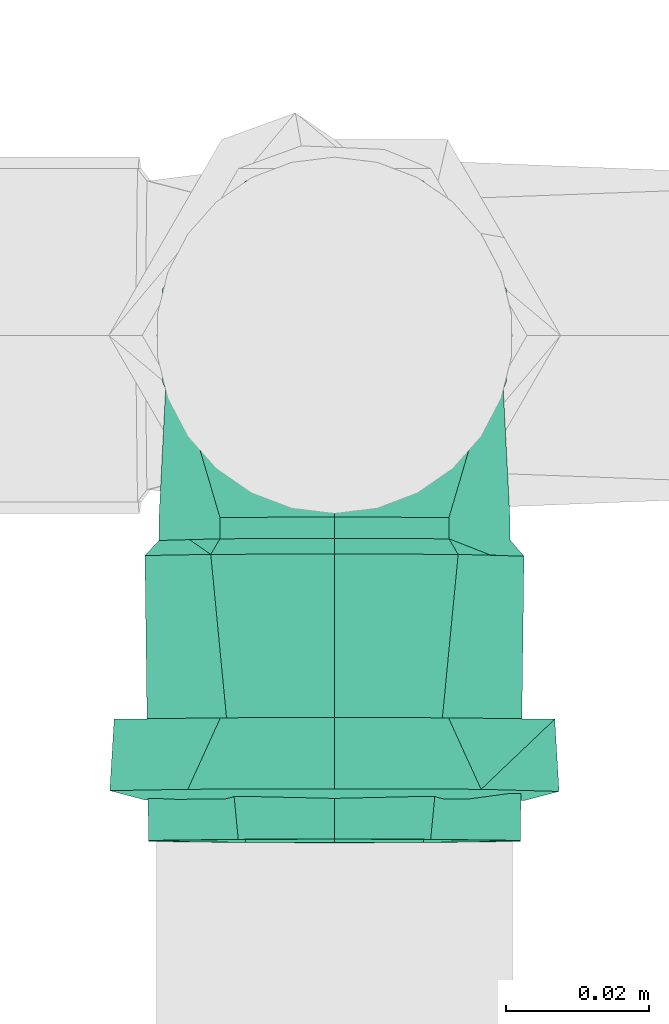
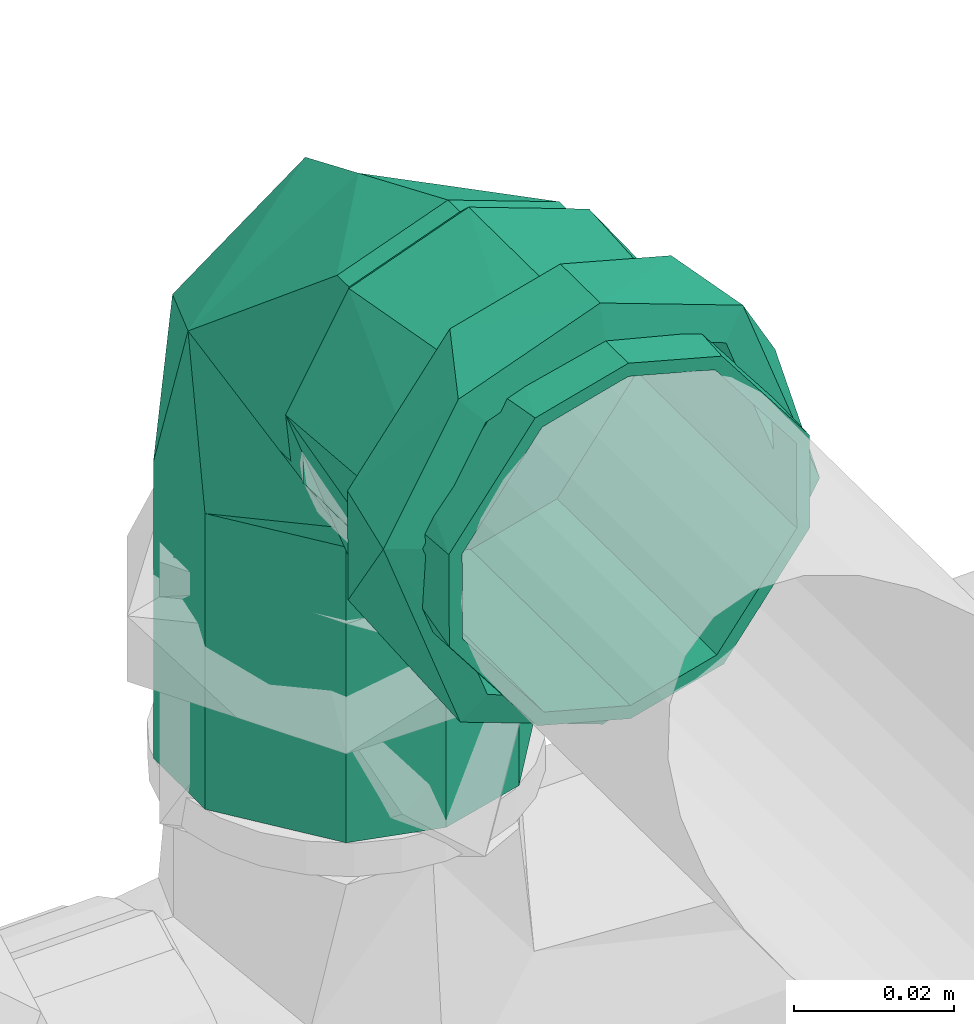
# One storey, part 101 of 589: 1 flow fitting.
"""IFC2X3 building model written with IfcOpenShell, lengths in millimetres."""

import ifcopenshell
import ifcopenshell.guid

model = None  # the IFC model being written
_history = None  # IfcOwnerHistory: only IFC2X3 demands one
_inside = {}  # id of a spatial element -> (the spatial element, [elements in it])
_under = {}  # id of a project, library or spatial element -> (it, [spatial elements below it])
_declared = {}  # id of a project -> (the project, [libraries it declares])
_typed = {}  # id of a type object -> (the type object, [elements of that type])
_made_of = {}  # id of a material, layer set ... -> (it, [elements and type objects made of it])


def new_model(schema):
    """Start an empty IFC model of exactly this schema.

    Asked for "IFC4X3", IfcOpenShell would pick the latest addendum, in which some entities
    have other attributes; the version numbers below select the first issue.
    IFC2X3 requires an IfcOwnerHistory on every rooted entity: one is made here for all.
    """
    global model, _history
    if schema == "IFC4X3":
        model = ifcopenshell.file(schema_version=(4, 3, 0, 0))
    else:
        model = ifcopenshell.file(schema=schema)
    _inside.clear()
    _under.clear()
    _declared.clear()
    _typed.clear()
    _made_of.clear()
    _history = None
    if model.schema == "IFC2X3":
        org = make("IfcOrganization", Name="unknown")
        user = make(
            "IfcPersonAndOrganization",
            ThePerson=make("IfcPerson", FamilyName="unknown"),
            TheOrganization=org,
        )
        app = make(
            "IfcApplication",
            ApplicationDeveloper=org,
            Version="unknown",
            ApplicationFullName="unknown",
            ApplicationIdentifier="unknown",
        )
        _history = make(
            "IfcOwnerHistory",
            OwningUser=user,
            OwningApplication=app,
            ChangeAction="ADDED",
            CreationDate=0,
        )
    return model


def make(cls, **values):
    """One entity of the class cls with the attributes given. An attribute that is None is left unset."""
    return model.create_entity(
        cls, **{name: value for name, value in values.items() if value is not None}
    )


def entity(cls, *values):
    """Any entity or typed value of the class cls, its attributes in the order of the schema. None: left unset."""
    e = model.create_entity(cls)
    for i, value in enumerate(values):
        if value is not None:
            e[i] = value
    return e


def rooted(cls, **values):
    """An entity with a GlobalId (a new one), such as an element, a storey or a relation."""
    return make(cls, GlobalId=ifcopenshell.guid.new(), OwnerHistory=_history, **values)


def si_unit(unit_type, name, prefix=None):
    """IfcSIUnit, for example si_unit("LENGTHUNIT", "METRE", prefix="MILLI")."""
    return make("IfcSIUnit", UnitType=unit_type, Prefix=prefix, Name=name)


def converted_unit(unit_type, name, factor, base, dimensions=None, offset=None):
    """IfcConversionBasedUnit, such as the inch: factor (a typed value) times the base unit."""
    return make(
        "IfcConversionBasedUnit"
        if offset is None
        else "IfcConversionBasedUnitWithOffset",
        ConversionOffset=offset,
        Dimensions=None
        if dimensions is None
        else entity("IfcDimensionalExponents", *dimensions),
        UnitType=unit_type,
        Name=name,
        ConversionFactor=make(
            "IfcMeasureWithUnit", ValueComponent=factor, UnitComponent=base
        ),
    )


def derived_unit(unit_type, elements):
    """IfcDerivedUnit: a product of units, each with its exponent."""
    return make(
        "IfcDerivedUnit",
        Elements=[
            make("IfcDerivedUnitElement", Unit=unit, Exponent=power)
            for unit, power in elements
        ],
        UnitType=unit_type,
    )


def assignment(units):
    """IfcUnitAssignment: the units of a project."""
    return None if units is None else make("IfcUnitAssignment", Units=units)


def point(xyz):
    """IfcCartesianPoint."""
    return None if xyz is None else make("IfcCartesianPoint", Coordinates=xyz)


def direction(xyz):
    """IfcDirection."""
    return None if xyz is None else make("IfcDirection", DirectionRatios=xyz)


def frame(location, z_axis=None, x_axis=None):
    """IfcAxis2Placement3D, a coordinate frame: its origin and axes. An axis left out is left unset."""
    return make(
        "IfcAxis2Placement3D",
        Location=point(location),
        Axis=direction(z_axis),
        RefDirection=direction(x_axis),
    )


def origin():
    """The frame at (0, 0, 0) with its axes left unset."""
    return frame((0.0, 0.0, 0.0))


def place(relative_to, where):
    """IfcLocalPlacement: puts the frame where relative to a parent placement (None: the world)."""
    return make(
        "IfcLocalPlacement", PlacementRelTo=relative_to, RelativePlacement=where
    )


def context(
    kind, dimensions, precision=None, world=None, true_north=None, identifier=None
):
    """IfcGeometricRepresentationContext, for example the 3D "Model" context."""
    return make(
        "IfcGeometricRepresentationContext",
        ContextIdentifier=identifier,
        ContextType=kind,
        CoordinateSpaceDimension=dimensions,
        Precision=precision,
        WorldCoordinateSystem=world,
        TrueNorth=true_north,
    )


def subcontext(parent, identifier, kind, view, scale=None):
    """IfcGeometricRepresentationSubContext, for example "Body" below "Model"."""
    return make(
        "IfcGeometricRepresentationSubContext",
        ContextIdentifier=identifier,
        ContextType=kind,
        ParentContext=parent,
        TargetScale=scale,
        TargetView=view,
    )


def project(units=None, contexts=None):
    """IfcProject with its units and contexts."""
    return rooted(
        "IfcProject",
        Name="project",
        RepresentationContexts=contexts,
        UnitsInContext=assignment(units),
    )


def spatial(cls, under=None, at=None, **own):
    """A site, building, storey or space (cls), placed at a placement, below another one or the project."""
    s = rooted(cls, ObjectPlacement=at, **own)
    if under is not None:
        _under.setdefault(under.id(), (under, []))[1].append(s)
    return s


def faces_of(points, faces, orient=None, outer=None):
    """IfcFace entities. A face is a list of loops; a loop is a list of indices into points, from 0.

    orient and outer hold one flag for each loop. By default every Orientation is true, the
    first loop of a face is its IfcFaceOuterBound and the others are IfcFaceBound.
    """
    made = []
    for i, loops in enumerate(faces):
        bounds = []
        for j, loop in enumerate(loops):
            is_outer = j == 0 if outer is None else outer[i][j]
            bounds.append(
                make(
                    "IfcFaceOuterBound" if is_outer else "IfcFaceBound",
                    Bound=make("IfcPolyLoop", Polygon=[points[k] for k in loop]),
                    Orientation=True if orient is None else orient[i][j],
                )
            )
        made.append(make("IfcFace", Bounds=bounds))
    return made


def faceted_brep(points, faces, orient=None, outer=None, voids=None):
    """IfcFacetedBrep: a solid bounded by flat faces; with voids (closed shells), ...WithVoids."""
    shared = [point(p) for p in points]
    hull = make("IfcClosedShell", CfsFaces=faces_of(shared, faces, orient, outer))
    if voids is None:
        return make("IfcFacetedBrep", Outer=hull)
    return make(
        "IfcFacetedBrepWithVoids",
        Outer=hull,
        Voids=[
            make(cls, CfsFaces=faces_of(shared, fs, o, b)) for cls, fs, o, b in voids
        ],
    )


def shape(context_of_items, identifier, shape_type, items):
    """IfcShapeRepresentation: the items that make up one representation, for example the "Body"."""
    return make(
        "IfcShapeRepresentation",
        ContextOfItems=context_of_items,
        RepresentationIdentifier=identifier,
        RepresentationType=shape_type,
        Items=items,
    )


def source(mapping_origin, context_of_items, identifier, shape_type, items):
    """IfcRepresentationMap: a shape defined once, which mapped items show again and again."""
    return make(
        "IfcRepresentationMap",
        MappingOrigin=mapping_origin,
        MappedRepresentation=shape(context_of_items, identifier, shape_type, items),
    )


def transform(
    local_origin,
    x_axis=None,
    y_axis=None,
    z_axis=None,
    scale=None,
    scale2=None,
    scale3=None,
    uniform=True,
):
    """IfcCartesianTransformationOperator3D, or its non-uniform kind. x_axis, y_axis, z_axis: its Axis1, 2, 3."""
    if uniform:
        return make(
            "IfcCartesianTransformationOperator3D",
            Axis1=direction(x_axis),
            Axis2=direction(y_axis),
            LocalOrigin=point(local_origin),
            Scale=scale,
            Axis3=direction(z_axis),
        )
    return make(
        "IfcCartesianTransformationOperator3DnonUniform",
        Axis1=direction(x_axis),
        Axis2=direction(y_axis),
        LocalOrigin=point(local_origin),
        Scale=scale,
        Axis3=direction(z_axis),
        Scale2=scale2,
        Scale3=scale3,
    )


def mapped(mapping_source, mapping_target):
    """IfcMappedItem: shows the shape of a source again, moved by a transform."""
    return make(
        "IfcMappedItem", MappingSource=mapping_source, MappingTarget=mapping_target
    )


def material(Name=None, Category=None):
    """IfcMaterial."""
    return make("IfcMaterial", Name=Name, Category=Category)


def made_of(thing, what):
    """Note that an element or type object is made of a material, layer set ...; save() writes the relation."""
    if what is not None:
        _made_of.setdefault(what.id(), (what, []))[1].append(thing)
    return thing


def type_object(cls, material=None, **own):
    """A type object (cls), such as IfcWallType, which elements share."""
    return made_of(rooted(cls, **own), material)


def type_shapes(of_type, sources):
    """Give a type object the sources (RepresentationMaps) that its elements show as mapped items."""
    of_type.RepresentationMaps = sources


def element(
    cls,
    number,
    at=None,
    inside=None,
    cuts=None,
    type_object=None,
    material=None,
    context=None,
    identifier="Body",
    shape_type=None,
    held_by="IfcProductDefinitionShape",
    body=None,
    shapes=None,
    **own,
):
    """One element of the class cls, such as IfcWall. Its Tag is "e" and its number.

    at: its placement. inside: the storey or other place that contains it. cuts: it is an
    opening in that element (IfcRelVoidsElement). A single representation is given by context,
    identifier, shape_type and body (its items); several are given by shapes. held_by: the class
    of the entity that holds the representations. save() writes the other relations.
    """
    e = rooted(cls, Tag="e%d" % number, ObjectPlacement=at, **own)
    if body is not None:
        shapes = [shape(context, identifier, shape_type, body)]
    if shapes is not None:
        e.Representation = make(held_by, Representations=shapes)
    if inside is not None:
        _inside.setdefault(inside.id(), (inside, []))[1].append(e)
    if cuts is not None:
        rooted(
            "IfcRelVoidsElement", RelatingBuildingElement=cuts, RelatedOpeningElement=e
        )
    if type_object is not None:
        _typed.setdefault(type_object.id(), (type_object, []))[1].append(e)
    return made_of(e, material)


def aggregate(whole, parts):
    """IfcRelAggregates: a whole, such as a stair, and the parts it consists of."""
    return rooted("IfcRelAggregates", RelatingObject=whole, RelatedObjects=parts)


def save(model, path):
    """Write the relations noted so far, then the file.

    IfcRelAggregates (storeys below a building ...), IfcRelContainedInSpatialStructure (elements
    in a storey), IfcRelDefinesByType, IfcRelAssociatesMaterial and IfcRelDeclares: one each for
    every whole, place, type object, material and project.
    """
    for whole, parts in _under.values():
        aggregate(whole, parts)
    for where, things in _inside.values():
        rooted(
            "IfcRelContainedInSpatialStructure",
            RelatedElements=things,
            RelatingStructure=where,
        )
    for kind, things in _typed.values():
        rooted("IfcRelDefinesByType", RelatedObjects=things, RelatingType=kind)
    for what, things in _made_of.values():
        rooted("IfcRelAssociatesMaterial", RelatedObjects=things, RelatingMaterial=what)
    for by, libraries in _declared.values():
        rooted("IfcRelDeclares", RelatingContext=by, RelatedDefinitions=libraries)
    model.write(path)


model = new_model("IFC2X3")

# Units and contexts
model_context = context("Model", 3, precision=0.01, world=origin(), true_north=direction((6.123031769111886e-17, 1.0)))
body_context = subcontext(model_context, "Body", "Model", "MODEL_VIEW")
ifc_project = project(units=[si_unit("LENGTHUNIT", "METRE", prefix="MILLI"), si_unit("AREAUNIT", "SQUARE_METRE"), si_unit("VOLUMEUNIT", "CUBIC_METRE"), converted_unit("PLANEANGLEUNIT", "DEGREE", entity("IfcRatioMeasure", 0.017453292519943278), si_unit("PLANEANGLEUNIT", "RADIAN"), dimensions=[0, 0, 0, 0, 0, 0, 0]), si_unit("MASSUNIT", "GRAM", prefix="KILO"), derived_unit("MASSDENSITYUNIT", [(si_unit("MASSUNIT", "GRAM", prefix="KILO"), 1), (si_unit("LENGTHUNIT", "METRE"), -3)]), derived_unit("IONCONCENTRATIONUNIT", [(si_unit("MASSUNIT", "GRAM", prefix="KILO"), 1), (si_unit("LENGTHUNIT", "METRE"), -3)]), derived_unit("MOMENTOFINERTIAUNIT", [(si_unit("LENGTHUNIT", "METRE"), 4)]), si_unit("TIMEUNIT", "SECOND"), si_unit("FREQUENCYUNIT", "HERTZ"), si_unit("THERMODYNAMICTEMPERATUREUNIT", "DEGREE_CELSIUS"), derived_unit("THERMALTRANSMITTANCEUNIT", [(si_unit("MASSUNIT", "GRAM", prefix="KILO"), 1), (si_unit("THERMODYNAMICTEMPERATUREUNIT", "KELVIN"), -1), (si_unit("TIMEUNIT", "SECOND"), -3)]), derived_unit("THERMALCONDUCTANCEUNIT", [(si_unit("MASSUNIT", "GRAM", prefix="KILO"), 1), (si_unit("THERMODYNAMICTEMPERATUREUNIT", "KELVIN"), -1), (si_unit("TIMEUNIT", "SECOND"), -3), (si_unit("LENGTHUNIT", "METRE"), 1)]), derived_unit("VOLUMETRICFLOWRATEUNIT", [(si_unit("LENGTHUNIT", "METRE"), 3), (si_unit("TIMEUNIT", "SECOND"), -1)]), derived_unit("MASSFLOWRATEUNIT", [(si_unit("MASSUNIT", "GRAM", prefix="KILO"), 1), (si_unit("TIMEUNIT", "SECOND"), -1)]), derived_unit("ROTATIONALFREQUENCYUNIT", [(si_unit("TIMEUNIT", "SECOND"), -1)]), si_unit("ELECTRICCURRENTUNIT", "AMPERE"), si_unit("ELECTRICVOLTAGEUNIT", "VOLT"), si_unit("POWERUNIT", "WATT"), si_unit("FORCEUNIT", "NEWTON", prefix="KILO"), si_unit("ILLUMINANCEUNIT", "LUX"), si_unit("LUMINOUSFLUXUNIT", "LUMEN"), si_unit("LUMINOUSINTENSITYUNIT", "CANDELA"), derived_unit("USERDEFINED", [(si_unit("MASSUNIT", "GRAM", prefix="KILO"), -1), (si_unit("LENGTHUNIT", "METRE"), -2), (si_unit("TIMEUNIT", "SECOND"), 3), (si_unit("LUMINOUSFLUXUNIT", "LUMEN"), 1)]), derived_unit("USERDEFINED", [(si_unit("MASSUNIT", "GRAM", prefix="KILO"), 1), (si_unit("TIMEUNIT", "SECOND"), -3), (si_unit("LENGTHUNIT", "METRE"), 3), (si_unit("ELECTRICCURRENTUNIT", "AMPERE"), -2)]), derived_unit("SOUNDPOWERUNIT", [(si_unit("MASSUNIT", "GRAM", prefix="KILO"), 1), (si_unit("TIMEUNIT", "SECOND"), -3), (si_unit("LENGTHUNIT", "METRE"), 2)]), derived_unit("SOUNDPRESSUREUNIT", [(si_unit("MASSUNIT", "GRAM", prefix="KILO"), 1), (si_unit("LENGTHUNIT", "METRE"), -1), (si_unit("TIMEUNIT", "SECOND"), -2)]), derived_unit("LINEARVELOCITYUNIT", [(si_unit("LENGTHUNIT", "METRE"), 1), (si_unit("TIMEUNIT", "SECOND"), -1)]), si_unit("PRESSUREUNIT", "PASCAL"), derived_unit("USERDEFINED", [(si_unit("MASSUNIT", "GRAM", prefix="KILO"), 1), (si_unit("LENGTHUNIT", "METRE"), -2), (si_unit("TIMEUNIT", "SECOND"), -2)]), derived_unit("LINEARFORCEUNIT", [(si_unit("MASSUNIT", "GRAM", prefix="KILO"), 1), (si_unit("TIMEUNIT", "SECOND"), -2)]), derived_unit("PLANARFORCEUNIT", [(si_unit("MASSUNIT", "GRAM", prefix="KILO"), 1), (si_unit("LENGTHUNIT", "METRE"), -1), (si_unit("TIMEUNIT", "SECOND"), -2)]), derived_unit("SPECIFICHEATCAPACITYUNIT", [(si_unit("THERMODYNAMICTEMPERATUREUNIT", "KELVIN"), -1), (si_unit("LENGTHUNIT", "METRE"), 2), (si_unit("TIMEUNIT", "SECOND"), -2)]), derived_unit("HEATINGVALUEUNIT", [(si_unit("LENGTHUNIT", "METRE"), 2), (si_unit("TIMEUNIT", "SECOND"), -2)]), derived_unit("VAPORPERMEABILITYUNIT", [(si_unit("LENGTHUNIT", "METRE"), -1), (si_unit("TIMEUNIT", "SECOND"), 1)]), derived_unit("DYNAMICVISCOSITYUNIT", [(si_unit("MASSUNIT", "GRAM", prefix="KILO"), 1), (si_unit("TIMEUNIT", "SECOND"), -1), (si_unit("LENGTHUNIT", "METRE"), -1)]), derived_unit("THERMALEXPANSIONCOEFFICIENTUNIT", [(si_unit("THERMODYNAMICTEMPERATUREUNIT", "KELVIN"), -1)]), derived_unit("MODULUSOFELASTICITYUNIT", [(si_unit("MASSUNIT", "GRAM", prefix="KILO"), 1), (si_unit("LENGTHUNIT", "METRE"), -1), (si_unit("TIMEUNIT", "SECOND"), -2)]), derived_unit("ISOTHERMALMOISTURECAPACITYUNIT", [(si_unit("LENGTHUNIT", "METRE"), 3), (si_unit("MASSUNIT", "GRAM", prefix="KILO"), -1)]), derived_unit("MOISTUREDIFFUSIVITYUNIT", [(si_unit("TIMEUNIT", "SECOND"), -1), (si_unit("LENGTHUNIT", "METRE"), 2)])], contexts=[model_context])

# Site, building, storey
site_placement = place(None, origin())
site = spatial("IfcSite", under=ifc_project, at=site_placement, Name="Default", CompositionType="ELEMENT")
building_placement = place(site_placement, origin())
building = spatial("IfcBuilding", under=site, at=building_placement, CompositionType="ELEMENT")
storey_placement = place(building_placement, frame((0.0, 0.0, 100.0)))
storey = spatial("IfcBuildingStorey", under=building, at=storey_placement, Name="TÉRREO", CompositionType="ELEMENT", Elevation=100.0)

# Flow fitting
ifc_material = material(Name="PVC Série Normal")
pipe_fitting_type = type_object("IfcPipeFittingType", Name="PVC Esgoto_Joelho 45_90_Rodrigo MEP:a. Série Normal", PredefinedType="NOTDEFINED", material=ifc_material)
shared_shape = source(origin(), body_context, "Body", "Brep", [
    faceted_brep([(-70.94129996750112, -21.650635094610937, -12.500000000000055), (-70.94129996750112, -25.0, 0.0), (-70.94129996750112, -21.650635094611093, 12.499999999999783), (-70.94129996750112, -6.470476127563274, 24.148145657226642), (-70.94129996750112, 6.470476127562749, 24.14814565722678), (-70.94129996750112, 21.650635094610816, 12.500000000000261), (-70.94129996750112, 25.0, 0.0), (-70.94129996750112, 21.650635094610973, -12.499999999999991), (-70.94129996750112, 6.4704761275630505, -24.1481456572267), (-70.94129996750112, -6.4704761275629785, -24.14814565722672), (-25.74129996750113, 6.4704761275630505, -24.1481456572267), (-25.74129996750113, 21.650635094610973, -12.499999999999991), (-25.74129996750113, 25.0, 0.0), (-25.74129996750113, 21.650635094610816, 12.500000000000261), (-25.74129996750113, 6.470476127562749, 24.14814565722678), (-25.74129996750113, -6.470476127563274, 24.148145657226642), (-25.74129996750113, -21.650635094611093, 12.499999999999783), (-25.74129996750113, -25.0, 0.0), (-25.74129996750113, -21.650635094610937, -12.500000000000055), (-25.74129996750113, -6.4704761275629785, -24.14814565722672)], [[[0, 1, 2, 3, 4, 5, 6, 7, 8, 9]], [[10, 11, 12, 13, 14, 15, 16, 17, 18, 19]], [[1, 17, 16, 2]], [[2, 16, 15, 3]], [[15, 14, 4, 3]], [[4, 14, 13, 5]], [[5, 13, 12, 6]], [[6, 12, 11, 7]], [[7, 11, 10, 8]], [[10, 19, 9, 8]], [[9, 19, 18, 0]], [[0, 18, 17, 1]]]),
    faceted_brep([(7.527150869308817, 53.86872545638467, -26.079997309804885), (-6.448378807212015, 54.008480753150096, -26.079997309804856), (-7.742409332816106, 54.02142105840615, -30.90962644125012), (8.8211813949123, 53.85578515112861, -30.90962644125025), (23.920902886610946, 53.70478793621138, -13.500000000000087), (-27.172041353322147, 54.215717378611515, -16.0), (-22.842130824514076, 54.172418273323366, -13.499999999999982), (-26.459264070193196, 54.20858960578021, 0.0), (-31.45901408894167, 54.25858710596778, 0.0), (-22.842130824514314, 54.172418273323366, 13.499999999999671), (-27.17204135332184, 54.21571737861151, 16.0), (-6.448378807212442, 54.008480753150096, 26.079997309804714), (-7.742409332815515, 54.02142105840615, 30.909626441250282), (7.527150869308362, 53.86872545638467, 26.07999730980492), (8.821181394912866, 53.8557851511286, 30.909626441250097), (23.92090288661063, 53.70478793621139, 13.500000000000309), (28.250813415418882, 53.66148883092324, 16.0), (32.53778615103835, 53.618619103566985, 0.0), (27.538036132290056, 53.66861660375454, 0.0), (28.250813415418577, 53.66148883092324, -16.0), (32.63778115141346, 63.61811914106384, 0.0), (25.150431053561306, 63.692992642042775, 20.570569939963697), (-4.921474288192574, 63.99371169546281, 31.513073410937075), (-23.876827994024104, 64.1832652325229, 20.564420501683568), (-31.359019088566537, 64.25808714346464, 0.0), (-23.876827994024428, 64.1832652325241, -20.564420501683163), (6.192331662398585, 63.88257363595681, -31.51446740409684), (25.150431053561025, 63.692992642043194, -20.57056993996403), (-26.35926906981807, 64.20808964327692, 0.0), (-26.346269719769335, 65.50802464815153, 0.0), (-24.550702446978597, 64.19000397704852, 6.749999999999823), (-22.742135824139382, 64.1719183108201, 13.49999999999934), (-18.643697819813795, 64.1309339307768, 16.644999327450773), (-14.545259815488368, 64.08994955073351, 19.789998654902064), (-10.446821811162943, 64.04896517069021, 22.934997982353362), (-6.34838380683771, 64.00798079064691, 26.07999730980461), (0.63938103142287, 63.938103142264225, 26.07999730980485), (7.627145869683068, 63.86822549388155, 26.079997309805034), (11.725583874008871, 63.82724111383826, 22.934997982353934), (15.824021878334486, 63.78625673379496, 19.789998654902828), (19.922459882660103, 63.74527235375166, 16.64499932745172), (24.020897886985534, 63.70428797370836, 13.500000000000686), (25.82946450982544, 63.686202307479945, 6.750000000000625), (27.65103048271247, 64.96805164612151, 0.0), (27.638031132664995, 63.66811664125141, 0.0), (25.82946450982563, 63.686202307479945, -6.750000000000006), (24.020897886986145, 63.70428797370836, -13.499999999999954), (19.922459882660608, 63.74527235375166, -16.644999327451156), (15.824021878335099, 63.78625673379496, -19.789998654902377), (11.72558387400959, 63.82724111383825, -22.934997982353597), (7.62714586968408, 63.86822549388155, -26.07999730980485), (0.6393810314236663, 63.938103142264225, -26.079997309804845), (-6.348383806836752, 64.0079807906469, -26.079997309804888), (-10.446821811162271, 64.0489651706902, -22.93499798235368), (-14.545259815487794, 64.0899495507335, -19.78999865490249), (-18.64369781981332, 64.1309339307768, -16.644999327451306), (-22.742135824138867, 64.17191831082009, -13.50000000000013), (-24.550702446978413, 64.1900039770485, -6.7500000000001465), (24.494481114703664, 64.99961713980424, 8.675614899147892), (21.337931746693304, 65.03118263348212, 17.3512297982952), (14.995218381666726, 65.09460976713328, 19.661005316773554), (8.652505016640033, 65.15803690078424, 21.970780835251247), (2.3097916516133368, 65.22146403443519, 24.280556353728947), (-4.032921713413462, 65.28489116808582, 26.590331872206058), (-20.02881807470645, 65.44485013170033, 17.356418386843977), (-23.187543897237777, 65.47643738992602, 8.678209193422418), (-12.030869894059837, 65.36487064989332, 21.97337512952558), (-23.187543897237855, 65.47643738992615, -8.678209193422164), (-20.028818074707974, 65.44485013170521, -17.35641838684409), (-13.68552554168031, 65.38141720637, -19.664602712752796), (-7.342233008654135, 65.31798428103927, -21.972787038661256), (-0.998940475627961, 65.25455135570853, -24.280971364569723), (5.344352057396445, 65.1911184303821, -26.589155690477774), (21.3379317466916, 65.03118263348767, -17.35122979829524), (24.494481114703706, 64.9996171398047, -8.675614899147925), (13.34114190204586, 65.11115053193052, -21.970192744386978)], [[[0, 1, 2]], [[2, 3, 0]], [[4, 0, 3]], [[5, 2, 1]], [[1, 6, 5]], [[6, 7, 5]], [[8, 5, 7]], [[8, 7, 9]], [[10, 8, 9]], [[9, 11, 10]], [[11, 12, 10]], [[13, 12, 11]], [[12, 13, 14]], [[13, 15, 14]], [[16, 14, 15]], [[16, 15, 17]], [[17, 15, 18]], [[18, 4, 19]], [[17, 18, 19]], [[3, 19, 4]], [[20, 21, 16]], [[20, 16, 17]], [[16, 21, 14]], [[21, 22, 14]], [[12, 22, 23]], [[10, 23, 24]], [[23, 10, 12]], [[10, 24, 8]], [[22, 12, 14]], [[24, 25, 5]], [[24, 5, 8]], [[5, 25, 2]], [[25, 26, 2]], [[3, 26, 27]], [[19, 27, 20]], [[27, 19, 3]], [[19, 20, 17]], [[26, 3, 2]], [[9, 7, 28, 29, 30, 31]], [[11, 9, 31, 32, 33, 34, 35]], [[11, 35, 36, 37, 13]], [[15, 13, 37, 38, 39, 40, 41]], [[18, 15, 41, 42, 43, 44]], [[4, 18, 44, 43, 45, 46]], [[0, 4, 46, 47, 48, 49, 50]], [[0, 50, 51, 52, 1]], [[6, 1, 52, 53, 54, 55, 56]], [[7, 6, 56, 57, 29, 28]], [[20, 43, 58, 59]], [[59, 21, 20]], [[21, 59, 60, 61, 62, 63]], [[21, 63, 22]], [[23, 64, 65, 29]], [[23, 22, 64]], [[24, 23, 29]], [[22, 63, 66, 64]], [[25, 29, 67, 68]], [[29, 25, 24]], [[25, 68, 26]], [[26, 68, 69, 70, 71, 72]], [[20, 73, 74, 43]], [[27, 72, 75, 73]], [[27, 73, 20]], [[72, 27, 26]], [[41, 40, 39, 59]], [[31, 65, 64]], [[61, 60, 38]], [[38, 60, 39]], [[63, 62, 36]], [[66, 63, 35]], [[32, 31, 64, 33]], [[36, 62, 37]], [[36, 35, 63]], [[38, 37, 61]], [[34, 33, 66, 35]], [[65, 30, 29]], [[42, 58, 43]], [[60, 59, 39]], [[37, 62, 61]], [[58, 41, 59]], [[66, 33, 64]], [[42, 41, 58]], [[65, 31, 30]], [[56, 55, 54, 68]], [[46, 74, 73]], [[70, 69, 53]], [[53, 69, 54]], [[72, 71, 51]], [[75, 72, 50]], [[47, 46, 73, 48]], [[51, 71, 52]], [[51, 50, 72]], [[53, 52, 70]], [[49, 48, 75, 50]], [[74, 45, 43]], [[57, 67, 29]], [[69, 68, 54]], [[52, 71, 70]], [[67, 56, 68]], [[75, 48, 73]], [[57, 56, 67]], [[74, 46, 45]]]),
    faceted_brep([(-21.34015511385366, 31.156248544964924, 12.50000000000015), (-6.160755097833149, 31.004454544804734, 24.14814565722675), (6.77955015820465, 30.875051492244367, 24.148145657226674), (21.958950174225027, 30.723257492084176, 12.499999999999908), (25.308147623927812, 30.68976551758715, 0.0), (21.95895017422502, 30.723257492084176, -12.499999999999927), (6.7795501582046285, 30.875051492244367, -24.148145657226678), (-6.160755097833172, 31.004454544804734, -24.14814565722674), (-21.340155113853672, 31.156248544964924, -12.500000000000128), (-24.689352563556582, 31.18974051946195, 0.0), (25.286148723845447, 28.48987550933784, 0.0), (19.440686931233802, 28.54833012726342, -16.065953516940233), (27.308047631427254, 30.66976651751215, 0.0), (-7.690727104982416, 31.019754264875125, -21.97078083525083), (4.994699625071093, 30.892899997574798, -26.5903318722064), (-4.05084405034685, 28.783245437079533, -24.62067765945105), (20.9905959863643, 30.732941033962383, -17.35641838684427), (-18.86185919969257, 28.931355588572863, -16.070757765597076), (-20.376153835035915, 31.146608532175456, -17.35122979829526), (7.694921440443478, 28.665787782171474, -20.34331558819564), (-24.711351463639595, 28.989850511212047, 0.0), (-26.68925257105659, 31.209739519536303, 0.0), (-18.861859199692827, 28.931355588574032, 16.07075776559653), (-20.376153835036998, 31.146608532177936, 17.35122979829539), (8.30401092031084, 30.859806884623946, 21.97278703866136), (-4.382574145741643, 30.986672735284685, 26.58915569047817), (4.631816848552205, 28.69641882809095, 24.619588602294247), (19.440686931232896, 28.548330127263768, 16.06595351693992), (20.99059598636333, 30.732941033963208, 17.356418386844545), (-7.115021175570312, 28.813887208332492, 20.345173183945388), (-6.278387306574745, 71.00763081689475, -26.0799973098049), (-5.760775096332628, 71.00245469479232, -24.14814565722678), (7.179530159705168, 70.87305164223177, -24.148145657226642), (-22.67213932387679, 71.17156833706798, -13.499999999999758), (7.697142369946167, 70.86787552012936, -26.07999730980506), (-20.9401751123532, 71.15424869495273, -12.500000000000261), (-24.289372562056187, 71.1877406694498, 0.0), (-26.289272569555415, 71.20773966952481, 0.0), (-20.940175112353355, 71.15424869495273, 12.499999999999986), (-22.672139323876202, 71.17156833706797, 13.50000000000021), (-5.760775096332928, 71.00245469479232, 24.1481456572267), (-6.2783873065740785, 71.00763081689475, 26.07999730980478), (7.179530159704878, 70.87305164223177, 24.148145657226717), (7.697142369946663, 70.86787552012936, 26.079997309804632), (22.358930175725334, 70.72125764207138, 12.500000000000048), (24.09089438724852, 70.70393799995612, 13.499999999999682), (27.708027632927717, 70.66776666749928, 0.0), (25.7081276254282, 70.6877656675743, 0.0), (24.09089438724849, 70.70393799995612, -13.500000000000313), (22.358930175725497, 70.72125764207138, -12.499999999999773), (25.256150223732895, 25.49002549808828, 0.0), (19.407503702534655, 25.548511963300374, 16.069749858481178), (4.598234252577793, 25.69660465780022, 24.62022085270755), (-7.1473471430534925, 25.81406047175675, 20.344851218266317), (-18.892928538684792, 25.93151628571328, 16.069481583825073), (-24.74134996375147, 25.990000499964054, 0.0), (-18.89292853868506, 25.93151628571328, -16.06948158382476), (-4.083778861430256, 25.78342478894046, -24.620160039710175), (19.407503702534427, 25.548511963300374, -16.069749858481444), (7.661862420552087, 25.665968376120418, -20.34495494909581), (-25.741299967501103, -21.65063509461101, 12.499999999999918), (-25.741299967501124, -6.470476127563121, 24.148145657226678), (-25.741299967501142, 6.470476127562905, 24.14814565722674), (-25.741299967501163, 21.650635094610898, 12.500000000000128), (-25.74129996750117, 25.0, 0.0), (-25.741299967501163, 21.65063509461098, -12.499999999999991), (-25.741299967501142, 6.470476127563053, -24.1481456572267), (-25.741299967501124, -6.470476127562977, -24.14814565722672), (-25.741299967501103, -21.650635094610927, -12.500000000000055), (-25.741299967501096, -25.0, 0.0), (-8.793857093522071, -16.047881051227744, 15.848255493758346), (-3.2027279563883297, -15.730161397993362, 0.0), (10.140389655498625, -10.242300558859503, 0.0), (-1.424468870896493, 0.8894555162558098, 23.341145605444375), (15.761400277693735, 3.0452732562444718, 0.0), (-25.037737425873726, 25.289366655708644, 0.0), (-8.793856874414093, -16.047880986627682, -15.84825546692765), (-1.5162390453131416, 0.8510028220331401, -23.354961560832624)], [[[0, 1, 2, 3, 4, 5, 6, 7, 8, 9]], [[10, 11, 12]], [[13, 14, 15]], [[16, 12, 11]], [[13, 17, 18]], [[17, 13, 15]], [[16, 19, 14]], [[17, 20, 18]], [[18, 20, 21]], [[19, 16, 11]], [[14, 19, 15]], [[20, 22, 23]], [[24, 25, 26]], [[23, 21, 20]], [[24, 27, 28]], [[27, 24, 26]], [[23, 29, 25]], [[27, 10, 12]], [[28, 27, 12]], [[29, 23, 22]], [[25, 29, 26]], [[30, 31, 32]], [[31, 30, 33]], [[32, 34, 30]], [[33, 35, 31]], [[33, 36, 35]], [[36, 33, 37]], [[38, 36, 37]], [[38, 37, 39]], [[39, 40, 38]], [[39, 41, 40]], [[40, 41, 42]], [[43, 42, 41]], [[43, 44, 42]], [[44, 43, 45]], [[46, 44, 45]], [[47, 44, 46]], [[48, 47, 46]], [[48, 49, 47]], [[49, 48, 34]], [[34, 32, 49]], [[46, 45, 12]], [[45, 28, 12]], [[28, 45, 43]], [[43, 25, 24, 28]], [[23, 41, 39]], [[21, 39, 37]], [[41, 23, 25]], [[23, 39, 21]], [[41, 25, 43]], [[37, 33, 21]], [[33, 18, 21]], [[18, 33, 30]], [[30, 14, 13, 18]], [[16, 34, 48]], [[12, 48, 46]], [[34, 16, 14]], [[16, 48, 12]], [[34, 14, 30]], [[5, 4, 47, 49]], [[6, 5, 49, 32]], [[32, 31, 7, 6]], [[8, 7, 31, 35]], [[9, 8, 35, 36]], [[0, 9, 36, 38]], [[1, 0, 38, 40]], [[40, 42, 2, 1]], [[3, 2, 42, 44]], [[4, 3, 44, 47]], [[10, 27, 50]], [[27, 51, 50]], [[51, 27, 26]], [[51, 26, 52]], [[52, 29, 53]], [[22, 54, 53]], [[22, 20, 54]], [[26, 29, 52]], [[54, 20, 55]], [[29, 22, 53]], [[20, 17, 56]], [[20, 56, 55]], [[56, 17, 57]], [[58, 59, 19]], [[17, 15, 57]], [[15, 59, 57]], [[58, 19, 11]], [[11, 50, 58]], [[50, 11, 10]], [[59, 15, 19]], [[60, 61, 62, 63, 64, 65, 66, 67, 68, 69]], [[70, 60, 71]], [[72, 73, 70]], [[74, 73, 72]], [[73, 61, 70]], [[70, 61, 60]], [[63, 62, 54]], [[64, 63, 75]], [[60, 69, 71]], [[73, 62, 61]], [[73, 74, 51]], [[74, 50, 51]], [[51, 52, 73]], [[75, 63, 55]], [[72, 70, 71]], [[63, 54, 55]], [[54, 62, 73]], [[73, 52, 53, 54]], [[76, 72, 71]], [[76, 68, 67]], [[65, 64, 75]], [[66, 65, 56]], [[71, 69, 68]], [[67, 77, 76]], [[68, 76, 71]], [[56, 77, 66]], [[55, 56, 65]], [[58, 50, 74]], [[77, 56, 57]], [[74, 77, 58]], [[67, 66, 77]], [[72, 77, 74]], [[77, 57, 59, 58]], [[72, 76, 77]], [[65, 75, 55]]]),
])
type_shapes(pipe_fitting_type, [shared_shape])
flow_fitting_placement = place(storey_placement, frame((-3099.894944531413, -354.2352269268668, -75.0), z_axis=(1.0, 0.0, 0.0), x_axis=(0.0, 0.0, 1.0)))
element("IfcFlowFitting", 1, at=flow_fitting_placement, inside=storey, type_object=pipe_fitting_type, material=ifc_material, Name="PVC Esgoto_Joelho 45_90_Rodrigo MEP:a. Série Normal", ObjectType="PVC Esgoto_Joelho 45_90_Rodrigo MEP:a. Série Normal", context=body_context, shape_type="MappedRepresentation", body=[
    mapped(shared_shape, transform((0.0, 0.0, 0.0), scale=1.0)),
])

save(model, "model.ifc")
